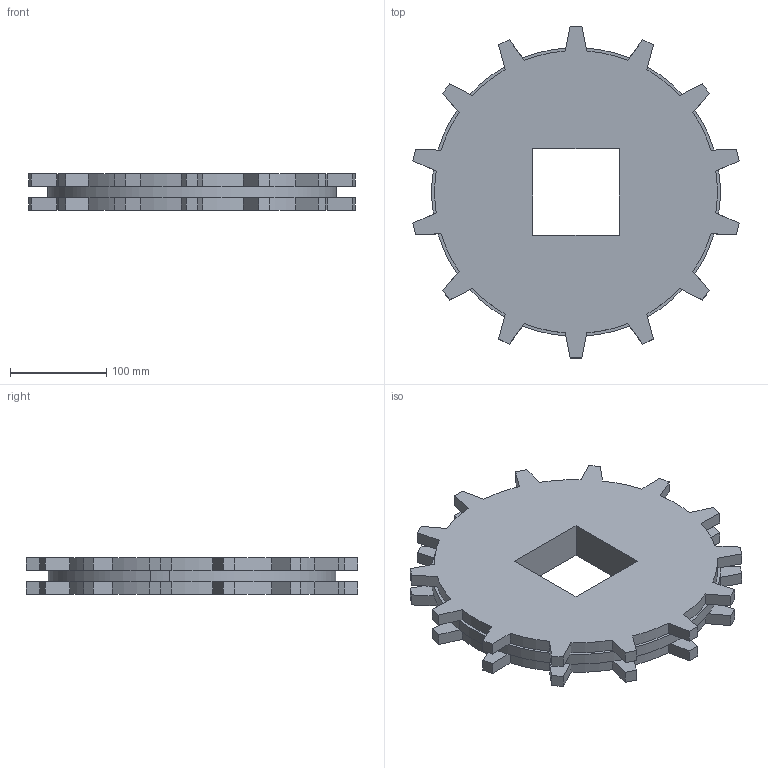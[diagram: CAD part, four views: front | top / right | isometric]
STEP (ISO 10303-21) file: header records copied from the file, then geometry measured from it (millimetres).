
FILE_DESCRIPTION((''),'2;1');
FILE_NAME('BASE_S10K_14T_SPROCKET','2013-06-25T',('CRGONZAL'),('INTRALOX'),'PRO/ENGINEER BY PARAMETRIC TECHNOLOGY CORPORATION, 2009460','PRO/ENGINEER BY PARAMETRIC TECHNOLOGY CORPORATION, 2009460','');
FILE_SCHEMA(('CONFIG_CONTROL_DESIGN'));
Length unit declared in the file: inch
Products named in the file (1): BASE_S10K_14T_SPROCKET
Bounding box: 338.67 x 344.59 x 37.59 mm (x, y, z)
Volume: 2430939.3 mm3; surface area: 209459.2 mm2
Topology: 1 solids, 1 shells, 176 faces, 462 edges, 288 vertices
Faces by surface type: plane 146, cylinder 30
Entity records: 5382 total; most frequent: DIRECTION 926, CARTESIAN_POINT 926, ORIENTED_EDGE 924, EDGE_CURVE 462, VECTOR 350, LINE 350, AXIS2_PLACEMENT_3D 288, VERTEX_POINT 288
